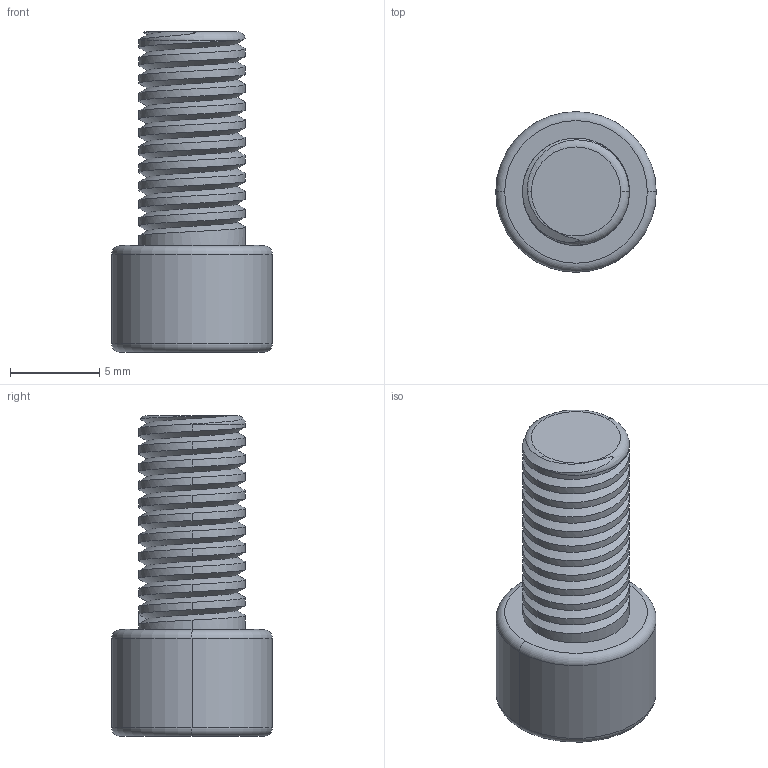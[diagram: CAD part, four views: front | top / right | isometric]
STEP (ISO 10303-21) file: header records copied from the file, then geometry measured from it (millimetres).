
FILE_DESCRIPTION (( 'STEP AP203' ), '1' );
FILE_NAME ('143-CE-IB-M6.STEP', '2015-07-09T09:03:06', ( '' ), ( '' ), 'SwSTEP 2.0', 'SolidWorks 2013', '' );
FILE_SCHEMA (( 'CONFIG_CONTROL_DESIGN' ));
Length unit declared in the file: millimetre
Products named in the file (1): 143-CE-IB-M6
Bounding box: 9 x 9 x 18 mm (x, y, z)
Volume: 579.1 mm3; surface area: 695.6 mm2
Topology: 1 solids, 1 shells, 46 faces, 121 edges, 79 vertices
Faces by surface type: cylinder 25, plane 11, torus 8, bspline 2
Entity records: 2721 total; most frequent: CARTESIAN_POINT 1644, ORIENTED_EDGE 242, DIRECTION 180, EDGE_CURVE 121, VERTEX_POINT 79, AXIS2_PLACEMENT_3D 67, EDGE_LOOP 48, VECTOR 46
